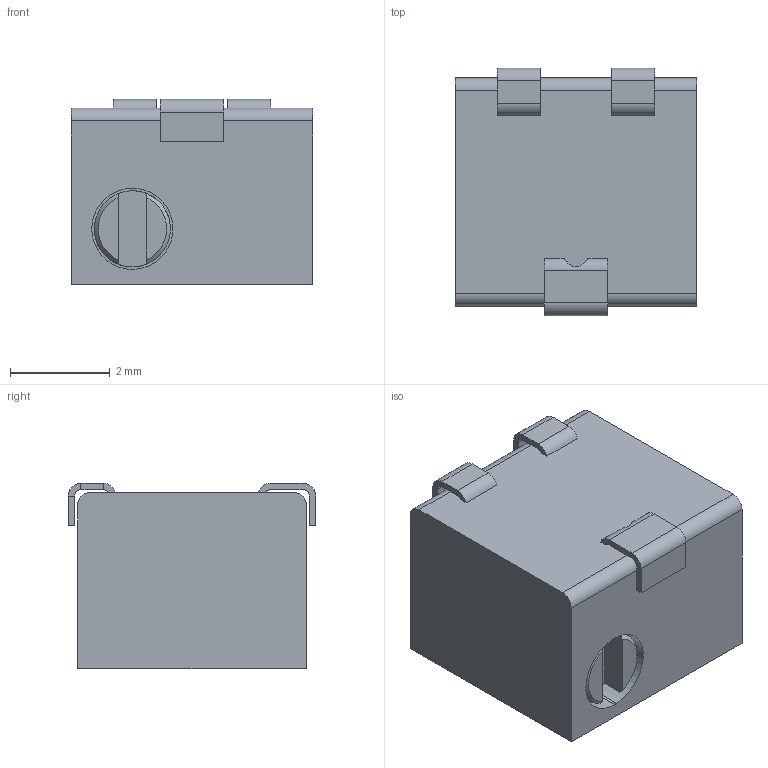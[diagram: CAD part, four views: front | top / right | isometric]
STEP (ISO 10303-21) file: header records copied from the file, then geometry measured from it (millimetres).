
FILE_DESCRIPTION(('STEP AP242'),'1');
FILE_NAME('3224j-1-100e.stp','2023-05-18T00:01:11',('TraceParts'),('TraceParts S.A.'),'Spatial InterOp 3D',' ',' ');
FILE_SCHEMA(('AP242_MANAGED_MODEL_BASED_3D_ENGINEERING_MIM_LF {1 0 10303 442 1 1 4}'));
Length unit declared in the file: millimetre
Products named in the file (1): 3224j-1-100e
Bounding box: 4.83 x 4.95 x 3.71 mm (x, y, z)
Volume: 77.6 mm3; surface area: 129.9 mm2
Topology: 1 solids, 2 shells, 84 faces, 201 edges, 125 vertices
Faces by surface type: plane 47, cylinder 30, cone 6, bspline 1
Entity records: 2554 total; most frequent: CARTESIAN_POINT 543, DIRECTION 432, ORIENTED_EDGE 402, EDGE_CURVE 201, AXIS2_PLACEMENT_3D 155, VERTEX_POINT 125, LINE 122, VECTOR 122
